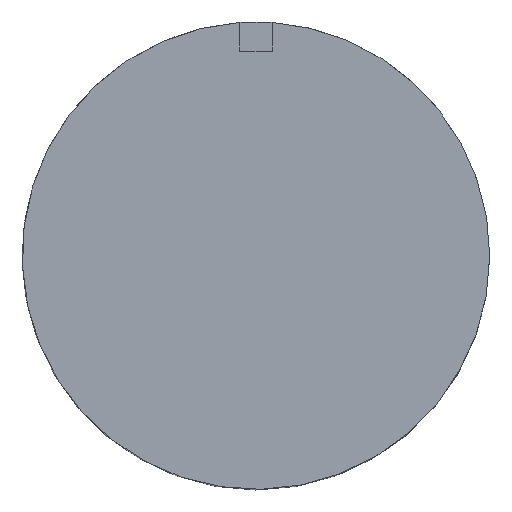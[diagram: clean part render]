
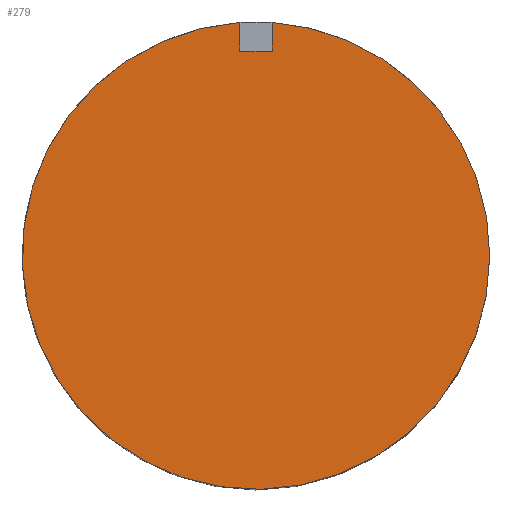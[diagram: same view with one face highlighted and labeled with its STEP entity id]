
A CAD part, top view. The second image highlights one B-rep face of the part: STEP entity #279.
In plain terms, the highlighted planar face has unit normal (0, 0, 1).
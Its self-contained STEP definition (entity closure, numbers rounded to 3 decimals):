
#31 = CYLINDRICAL_SURFACE('',#32,8.);
#32 = AXIS2_PLACEMENT_3D('',#33,#34,#35);
#33 = CARTESIAN_POINT('',(0.,0.,0.));
#34 = DIRECTION('',(-0.,-0.,-1.));
#35 = DIRECTION('',(1.,0.,0.));
#56 = VERTEX_POINT('',#57);
#57 = CARTESIAN_POINT('',(8.,0.,12.));
#78 = EDGE_CURVE('',#56,#79,#81,.T.);
#79 = VERTEX_POINT('',#80);
#80 = CARTESIAN_POINT('',(0.55,7.981,12.));
#81 = SURFACE_CURVE('',#82,(#87,#94),.PCURVE_S1.);
#82 = CIRCLE('',#83,8.);
#83 = AXIS2_PLACEMENT_3D('',#84,#85,#86);
#84 = CARTESIAN_POINT('',(0.,0.,12.));
#85 = DIRECTION('',(0.,0.,1.));
#86 = DIRECTION('',(1.,0.,0.));
#87 = PCURVE('',#31,#88);
#88 = DEFINITIONAL_REPRESENTATION('',(#89),#93);
#89 = LINE('',#90,#91);
#90 = CARTESIAN_POINT('',(-0.,-12.));
#91 = VECTOR('',#92,1.);
#92 = DIRECTION('',(-1.,0.));
#93 = ( GEOMETRIC_REPRESENTATION_CONTEXT(2) 
PARAMETRIC_REPRESENTATION_CONTEXT() REPRESENTATION_CONTEXT('2D SPACE',''
  ) );
#94 = PCURVE('',#95,#100);
#95 = PLANE('',#96);
#96 = AXIS2_PLACEMENT_3D('',#97,#98,#99);
#97 = CARTESIAN_POINT('',(0.,0.,12.));
#98 = DIRECTION('',(0.,0.,1.));
#99 = DIRECTION('',(1.,0.,-0.));
#100 = DEFINITIONAL_REPRESENTATION('',(#101),#105);
#101 = CIRCLE('',#102,8.);
#102 = AXIS2_PLACEMENT_2D('',#103,#104);
#103 = CARTESIAN_POINT('',(0.,0.));
#104 = DIRECTION('',(1.,0.));
#105 = ( GEOMETRIC_REPRESENTATION_CONTEXT(2) 
PARAMETRIC_REPRESENTATION_CONTEXT() REPRESENTATION_CONTEXT('2D SPACE',''
  ) );
#122 = PLANE('',#123);
#123 = AXIS2_PLACEMENT_3D('',#124,#125,#126);
#124 = CARTESIAN_POINT('',(0.55,7.,11.));
#125 = DIRECTION('',(1.,0.,0.));
#126 = DIRECTION('',(0.,0.,1.));
#167 = VERTEX_POINT('',#168);
#168 = CARTESIAN_POINT('',(-0.55,7.981,12.));
#181 = PLANE('',#182);
#182 = AXIS2_PLACEMENT_3D('',#183,#184,#185);
#183 = CARTESIAN_POINT('',(-0.55,7.,11.));
#184 = DIRECTION('',(1.,0.,0.));
#185 = DIRECTION('',(0.,0.,1.));
#192 = EDGE_CURVE('',#167,#56,#193,.T.);
#193 = SURFACE_CURVE('',#194,(#199,#206),.PCURVE_S1.);
#194 = CIRCLE('',#195,8.);
#195 = AXIS2_PLACEMENT_3D('',#196,#197,#198);
#196 = CARTESIAN_POINT('',(0.,0.,12.));
#197 = DIRECTION('',(0.,0.,1.));
#198 = DIRECTION('',(1.,0.,0.));
#199 = PCURVE('',#31,#200);
#200 = DEFINITIONAL_REPRESENTATION('',(#201),#205);
#201 = LINE('',#202,#203);
#202 = CARTESIAN_POINT('',(-0.,-12.));
#203 = VECTOR('',#204,1.);
#204 = DIRECTION('',(-1.,0.));
#205 = ( GEOMETRIC_REPRESENTATION_CONTEXT(2) 
PARAMETRIC_REPRESENTATION_CONTEXT() REPRESENTATION_CONTEXT('2D SPACE',''
  ) );
#206 = PCURVE('',#95,#207);
#207 = DEFINITIONAL_REPRESENTATION('',(#208),#212);
#208 = CIRCLE('',#209,8.);
#209 = AXIS2_PLACEMENT_2D('',#210,#211);
#210 = CARTESIAN_POINT('',(0.,0.));
#211 = DIRECTION('',(1.,0.));
#212 = ( GEOMETRIC_REPRESENTATION_CONTEXT(2) 
PARAMETRIC_REPRESENTATION_CONTEXT() REPRESENTATION_CONTEXT('2D SPACE',''
  ) );
#279 = ADVANCED_FACE('',(#280),#95,.T.);
#280 = FACE_BOUND('',#281,.T.);
#281 = EDGE_LOOP('',(#282,#283,#284,#305,#331));
#282 = ORIENTED_EDGE('',*,*,#192,.T.);
#283 = ORIENTED_EDGE('',*,*,#78,.T.);
#284 = ORIENTED_EDGE('',*,*,#285,.F.);
#285 = EDGE_CURVE('',#286,#79,#288,.T.);
#286 = VERTEX_POINT('',#287);
#287 = CARTESIAN_POINT('',(0.55,7.,12.));
#288 = SURFACE_CURVE('',#289,(#293,#299),.PCURVE_S1.);
#289 = LINE('',#290,#291);
#290 = CARTESIAN_POINT('',(0.55,3.5,12.));
#291 = VECTOR('',#292,1.);
#292 = DIRECTION('',(0.,1.,0.));
#293 = PCURVE('',#95,#294);
#294 = DEFINITIONAL_REPRESENTATION('',(#295),#298);
#295 = B_SPLINE_CURVE_WITH_KNOTS('',1,(#296,#297),.UNSPECIFIED.,.F.,.F.,
  (2,2),(3.5,4.5),.PIECEWISE_BEZIER_KNOTS.);
#296 = CARTESIAN_POINT('',(0.55,7.));
#297 = CARTESIAN_POINT('',(0.55,8.));
#298 = ( GEOMETRIC_REPRESENTATION_CONTEXT(2) 
PARAMETRIC_REPRESENTATION_CONTEXT() REPRESENTATION_CONTEXT('2D SPACE',''
  ) );
#299 = PCURVE('',#122,#300);
#300 = DEFINITIONAL_REPRESENTATION('',(#301),#304);
#301 = B_SPLINE_CURVE_WITH_KNOTS('',1,(#302,#303),.UNSPECIFIED.,.F.,.F.,
  (2,2),(3.5,4.5),.PIECEWISE_BEZIER_KNOTS.);
#302 = CARTESIAN_POINT('',(1.,0.));
#303 = CARTESIAN_POINT('',(1.,-1.));
#304 = ( GEOMETRIC_REPRESENTATION_CONTEXT(2) 
PARAMETRIC_REPRESENTATION_CONTEXT() REPRESENTATION_CONTEXT('2D SPACE',''
  ) );
#305 = ORIENTED_EDGE('',*,*,#306,.T.);
#306 = EDGE_CURVE('',#286,#307,#309,.T.);
#307 = VERTEX_POINT('',#308);
#308 = CARTESIAN_POINT('',(-0.55,7.,12.));
#309 = SURFACE_CURVE('',#310,(#314,#320),.PCURVE_S1.);
#310 = LINE('',#311,#312);
#311 = CARTESIAN_POINT('',(-0.275,7.,12.));
#312 = VECTOR('',#313,1.);
#313 = DIRECTION('',(-1.,0.,0.));
#314 = PCURVE('',#95,#315);
#315 = DEFINITIONAL_REPRESENTATION('',(#316),#319);
#316 = B_SPLINE_CURVE_WITH_KNOTS('',1,(#317,#318),.UNSPECIFIED.,.F.,.F.,
  (2,2),(-0.825,0.275),.PIECEWISE_BEZIER_KNOTS.);
#317 = CARTESIAN_POINT('',(0.55,7.));
#318 = CARTESIAN_POINT('',(-0.55,7.));
#319 = ( GEOMETRIC_REPRESENTATION_CONTEXT(2) 
PARAMETRIC_REPRESENTATION_CONTEXT() REPRESENTATION_CONTEXT('2D SPACE',''
  ) );
#320 = PCURVE('',#321,#326);
#321 = PLANE('',#322);
#322 = AXIS2_PLACEMENT_3D('',#323,#324,#325);
#323 = CARTESIAN_POINT('',(-0.55,7.,11.));
#324 = DIRECTION('',(0.,1.,0.));
#325 = DIRECTION('',(0.,0.,1.));
#326 = DEFINITIONAL_REPRESENTATION('',(#327),#330);
#327 = B_SPLINE_CURVE_WITH_KNOTS('',1,(#328,#329),.UNSPECIFIED.,.F.,.F.,
  (2,2),(-0.825,0.275),.PIECEWISE_BEZIER_KNOTS.);
#328 = CARTESIAN_POINT('',(1.,1.1));
#329 = CARTESIAN_POINT('',(1.,0.));
#330 = ( GEOMETRIC_REPRESENTATION_CONTEXT(2) 
PARAMETRIC_REPRESENTATION_CONTEXT() REPRESENTATION_CONTEXT('2D SPACE',''
  ) );
#331 = ORIENTED_EDGE('',*,*,#332,.T.);
#332 = EDGE_CURVE('',#307,#167,#333,.T.);
#333 = SURFACE_CURVE('',#334,(#338,#344),.PCURVE_S1.);
#334 = LINE('',#335,#336);
#335 = CARTESIAN_POINT('',(-0.55,3.5,12.));
#336 = VECTOR('',#337,1.);
#337 = DIRECTION('',(0.,1.,0.));
#338 = PCURVE('',#95,#339);
#339 = DEFINITIONAL_REPRESENTATION('',(#340),#343);
#340 = B_SPLINE_CURVE_WITH_KNOTS('',1,(#341,#342),.UNSPECIFIED.,.F.,.F.,
  (2,2),(3.5,4.5),.PIECEWISE_BEZIER_KNOTS.);
#341 = CARTESIAN_POINT('',(-0.55,7.));
#342 = CARTESIAN_POINT('',(-0.55,8.));
#343 = ( GEOMETRIC_REPRESENTATION_CONTEXT(2) 
PARAMETRIC_REPRESENTATION_CONTEXT() REPRESENTATION_CONTEXT('2D SPACE',''
  ) );
#344 = PCURVE('',#181,#345);
#345 = DEFINITIONAL_REPRESENTATION('',(#346),#349);
#346 = B_SPLINE_CURVE_WITH_KNOTS('',1,(#347,#348),.UNSPECIFIED.,.F.,.F.,
  (2,2),(3.5,4.5),.PIECEWISE_BEZIER_KNOTS.);
#347 = CARTESIAN_POINT('',(1.,0.));
#348 = CARTESIAN_POINT('',(1.,-1.));
#349 = ( GEOMETRIC_REPRESENTATION_CONTEXT(2) 
PARAMETRIC_REPRESENTATION_CONTEXT() REPRESENTATION_CONTEXT('2D SPACE',''
  ) );
